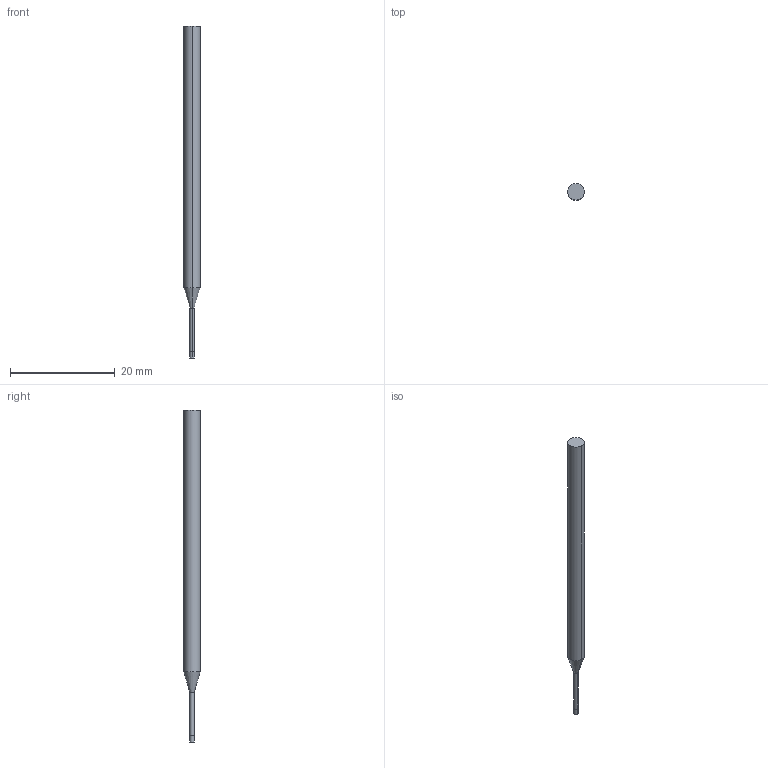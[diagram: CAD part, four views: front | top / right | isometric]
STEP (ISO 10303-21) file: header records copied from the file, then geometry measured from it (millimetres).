
FILE_DESCRIPTION((' '),'2;1');
FILE_NAME( '3MVS0312N12AH.stp', '2026-01-21T19:06:40', (' '), ('--- Datakit www.datakit.com---'), ' Datakit CrossCadWare V2025.4 Sep 19 2025', 'Mastercam 2027', ' ');
FILE_SCHEMA(('AUTOMOTIVE_DESIGN { 1 0 10303 214 1 1 1 1 }'));
Length unit declared in the file: inch
Products named in the file (1): 3MVS0312N12AH
Bounding box: 3.17 x 3.17 x 63.5 mm (x, y, z)
Volume: 414.7 mm3; surface area: 557 mm2
Topology: 1 solids, 1 shells, 10 faces, 18 edges, 10 vertices
Faces by surface type: cylinder 6, plane 2, cone 2
Entity records: 323 total; most frequent: DIRECTION 58, CARTESIAN_POINT 43, ORIENTED_EDGE 36, AXIS2_PLACEMENT_3D 25, EDGE_CURVE 18, VERTEX_POINT 10, CIRCLE 10, EDGE_LOOP 10
